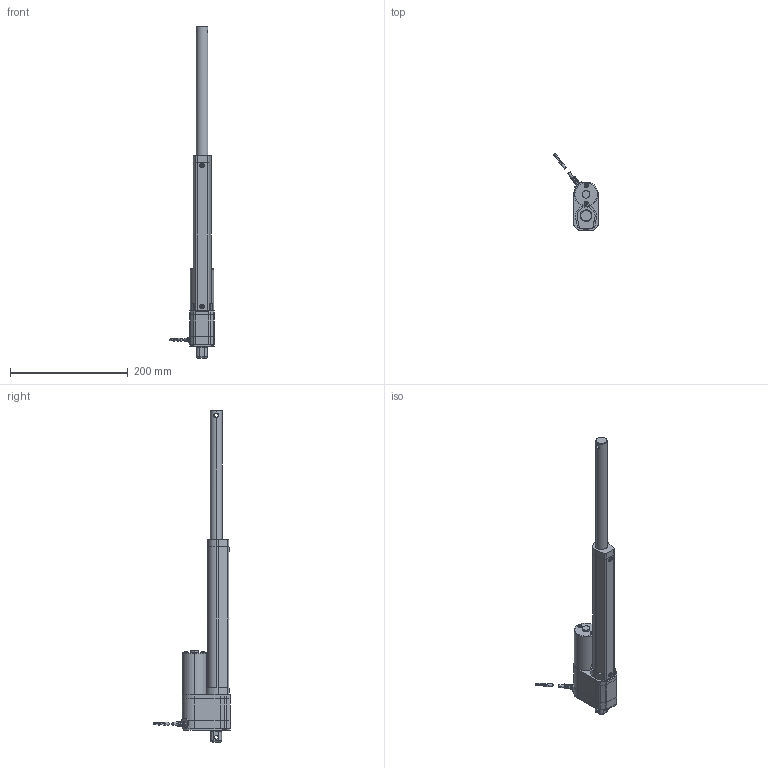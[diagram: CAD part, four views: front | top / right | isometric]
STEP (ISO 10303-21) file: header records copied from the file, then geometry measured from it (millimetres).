
FILE_DESCRIPTION (( 'STEP AP203' ), '1' );
FILE_NAME ('la3200pe.step', '2020-08-06T14:28:37', ( '' ), ( '' ), 'SwSTEP 2.0', 'SolidWorks 2017', '' );
FILE_SCHEMA (( 'CONFIG_CONTROL_DESIGN' ));
Length unit declared in the file: millimetre
Products named in the file (1): la3200pe
Bounding box: 76.3 x 130.49 x 565 mm (x, y, z)
Volume: 606116.7 mm3; surface area: 106551.9 mm2
Topology: 17 solids, 17 shells, 445 faces, 1086 edges, 710 vertices
Faces by surface type: plane 238, cylinder 171, torus 22, cone 10, bspline 4
Entity records: 16080 total; most frequent: CARTESIAN_POINT 5185, DIRECTION 2362, ORIENTED_EDGE 2172, EDGE_CURVE 1086, AXIS2_PLACEMENT_3D 854, VERTEX_POINT 710, VECTOR 654, LINE 654
